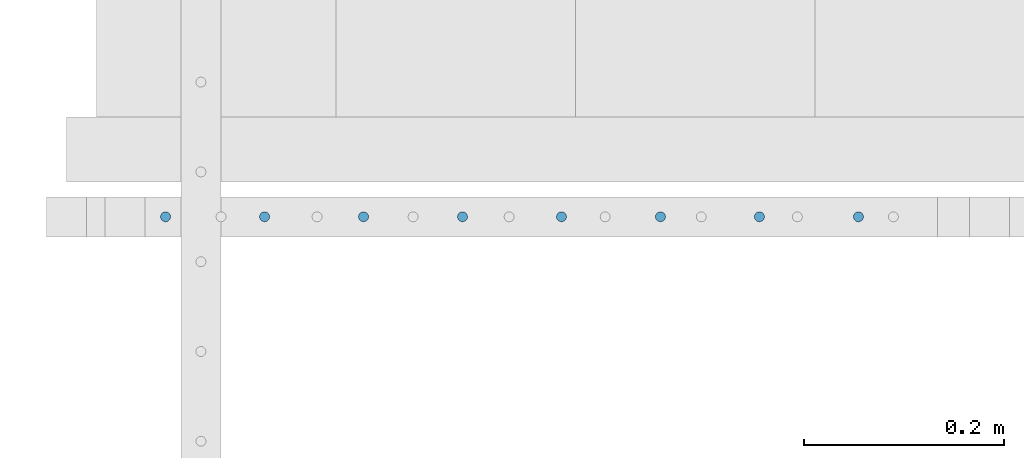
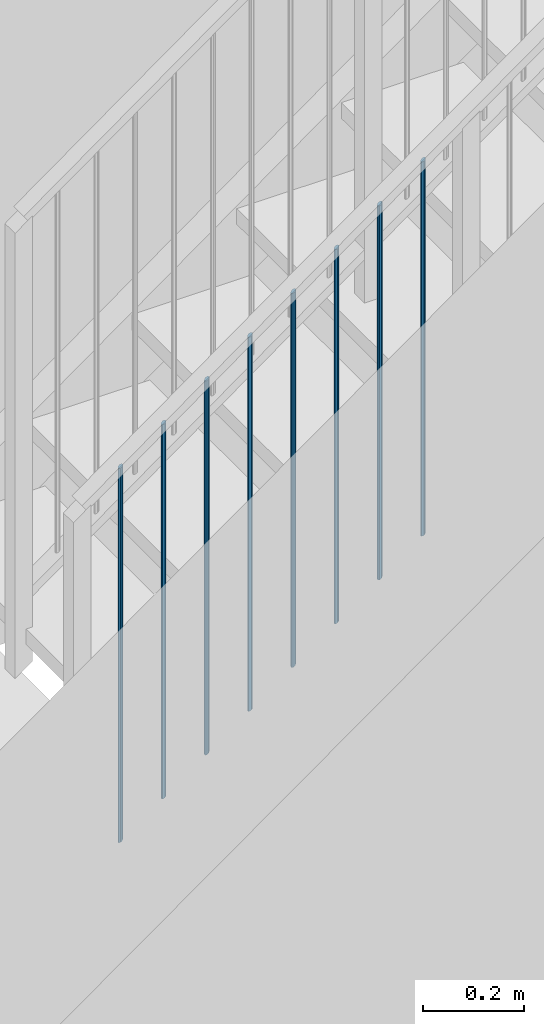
# One storey, part 12 of 135: 8 members, 1 element without a shape of its own.
"""IFC2X3 building model written with IfcOpenShell, lengths in millimetres."""

from ifc_helpers import new_model, entity, si_unit, converted_unit, derived_unit, money_unit, direction, frame, origin_with_axes, place, context, subcontext, project, spatial, faceted_brep, source, transform, mapped, material, type_object, type_shapes, element, aggregate, save


model = new_model("IFC2X3")

# Units and contexts
model_context = context("Model", 3, precision=0.01, world=origin_with_axes(), true_north=direction((0.0, 1.0)))
body_context = subcontext(model_context, "Body", "Model", "MODEL_VIEW")
ifc_project = project(units=[si_unit("LENGTHUNIT", "METRE", prefix="MILLI"), si_unit("AREAUNIT", "SQUARE_METRE"), si_unit("VOLUMEUNIT", "CUBIC_METRE"), converted_unit("PLANEANGLEUNIT", "DEGREE", entity("IfcPlaneAngleMeasure", 0.0174532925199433), si_unit("PLANEANGLEUNIT", "RADIAN"), dimensions=[0, 0, 0, 0, 0, 0, 0]), money_unit("EUR"), converted_unit("TIMEUNIT", "Year", entity("IfcTimeMeasure", 31557600.0), si_unit("TIMEUNIT", "SECOND"), dimensions=[0, 0, 1, 0, 0, 0, 0]), si_unit("MASSUNIT", "GRAM", prefix="KILO"), si_unit("THERMODYNAMICTEMPERATUREUNIT", "DEGREE_CELSIUS"), si_unit("LUMINOUSINTENSITYUNIT", "LUMEN"), si_unit("ENERGYUNIT", "JOULE", prefix="MEGA"), derived_unit("THERMALCONDUCTANCEUNIT", [(si_unit("POWERUNIT", "WATT"), 1), (si_unit("LENGTHUNIT", "METRE"), -1), (si_unit("THERMODYNAMICTEMPERATUREUNIT", "KELVIN"), -1)]), derived_unit("SPECIFICHEATCAPACITYUNIT", [(si_unit("ENERGYUNIT", "JOULE"), 1), (si_unit("MASSUNIT", "GRAM", prefix="KILO"), -1), (si_unit("THERMODYNAMICTEMPERATUREUNIT", "KELVIN"), -1)]), derived_unit("MASSDENSITYUNIT", [(si_unit("MASSUNIT", "GRAM", prefix="KILO"), 1), (si_unit("VOLUMEUNIT", "CUBIC_METRE"), -1)])], contexts=[model_context])

# Site, building, storey
site_placement = place(None, origin_with_axes())
site = spatial("IfcSite", under=ifc_project, at=site_placement, Name="Site", CompositionType="ELEMENT")
building_placement = place(site_placement, origin_with_axes())
building = spatial("IfcBuilding", under=site, at=building_placement, Name="Naam gebouw", CompositionType="ELEMENT")
storey_placement = place(building_placement, origin_with_axes())
storey = spatial("IfcBuildingStorey", under=building, at=storey_placement, Name="Begane grond N", CompositionType="ELEMENT", Elevation=0.0)

# Railing, members
railing_type = type_object("IfcRailingType", Name="Railing Type", PredefinedType="NOTDEFINED")
railing_placement = place(storey_placement, frame((56236.62159597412, 21185.9124251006, 157.4646725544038), z_axis=(0.0, 0.0, 1.0), x_axis=(1.0, 0.0, 0.0)))
railing = element("IfcRailing", 1, at=railing_placement, inside=storey, type_object=railing_type, Name="_Reling-x", PredefinedType="NOTDEFINED")
ifc_material = material(Name="Metaal - Staal C")
member_type = type_object("IfcMemberType", Name="IfcMember", PredefinedType="MEMBER")
shared_shape = source(origin_with_axes(), body_context, "Body", "Brep", [
    faceted_brep([(0.0, -4.999999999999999, -3.602430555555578), (0.8682408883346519, -4.924038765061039, -3.547701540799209), (0.8682408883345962, -4.924038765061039, 903.9522984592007), (0.0, -4.999999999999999, 903.8975694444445), (-0.8682408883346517, -4.924038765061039, -3.547701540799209), (-1.710100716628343, -4.698463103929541, -3.385177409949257), (-2.500000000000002, -4.330127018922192, -3.119796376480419), (-3.213938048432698, -3.830222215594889, -2.759621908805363), (-3.830222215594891, -3.213938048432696, -2.315597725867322), (-4.330127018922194, -2.5, -1.80121527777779), (-4.698463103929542, -1.710100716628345, -1.232103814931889), (-4.924038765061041, -0.8682408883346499, -0.6255555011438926), (-5.0, 0.0, 0.0), (-4.92403876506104, 0.8682408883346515, 0.6255555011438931), (-4.698463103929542, 1.710100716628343, 1.232103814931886), (-4.330127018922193, 2.500000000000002, 1.801215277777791), (-3.83022221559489, 3.213938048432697, 2.315597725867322), (-3.213938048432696, 3.83022221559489, 2.759621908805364), (-2.5, 4.330127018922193, 3.119796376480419), (-1.710100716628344, 4.698463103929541, 3.385177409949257), (-0.8682408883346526, 4.924038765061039, 3.547701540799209), (0.0, 4.999999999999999, 3.602430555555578), (0.8682408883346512, 4.924038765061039, 3.547701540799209), (1.710100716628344, 4.698463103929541, 3.385177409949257), (2.5, 4.330127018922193, 3.119796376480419), (3.213938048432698, 3.830222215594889, 2.759621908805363), (3.83022221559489, 3.213938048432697, 2.315597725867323), (4.330127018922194, 2.499999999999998, 1.801215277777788), (4.698463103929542, 1.710100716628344, 1.232103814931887), (4.92403876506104, 0.8682408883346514, 0.6255555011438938), (5.0, 0.0, 0.0), (4.92403876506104, -0.868240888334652, -0.6255555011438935), (4.698463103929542, -1.710100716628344, -1.232103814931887), (4.330127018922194, -2.5, -1.801215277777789), (3.83022221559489, -3.213938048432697, -2.315597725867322), (3.213938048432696, -3.83022221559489, -2.759621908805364), (2.5, -4.330127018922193, -3.119796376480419), (1.710100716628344, -4.698463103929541, -3.385177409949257), (1.710100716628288, -4.698463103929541, 904.1148225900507), (2.499999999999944, -4.330127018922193, 904.3802036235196), (3.213938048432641, -3.83022221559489, 904.7403780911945), (3.830222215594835, -3.213938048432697, 905.1844022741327), (4.330127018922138, -2.5, 905.6987847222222), (4.698463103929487, -1.710100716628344, 906.2678961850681), (4.924038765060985, -0.868240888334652, 906.8744444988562), (4.999999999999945, 0.0, 907.5), (4.924038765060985, 0.8682408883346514, 908.1255555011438), (4.698463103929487, 1.710100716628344, 908.7321038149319), (4.330127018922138, 2.499999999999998, 909.3012152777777), (3.830222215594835, 3.213938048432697, 909.8155977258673), (3.213938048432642, 3.830222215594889, 910.2596219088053), (2.499999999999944, 4.330127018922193, 910.6197963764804), (1.710100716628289, 4.698463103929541, 910.8851774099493), (0.8682408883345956, 4.924038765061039, 911.0477015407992), (0.0, 4.999999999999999, 911.1024305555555), (-0.8682408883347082, 4.924038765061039, 911.0477015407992), (-1.710100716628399, 4.698463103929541, 910.8851774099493), (-2.500000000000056, 4.330127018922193, 910.6197963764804), (-3.213938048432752, 3.83022221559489, 910.2596219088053), (-3.830222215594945, 3.213938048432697, 909.8155977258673), (-4.330127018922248, 2.500000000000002, 909.3012152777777), (-4.698463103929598, 1.710100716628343, 908.7321038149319), (-4.924038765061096, 0.8682408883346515, 908.1255555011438), (-5.000000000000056, 0.0, 907.5), (-4.924038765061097, -0.8682408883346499, 906.8744444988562), (-4.698463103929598, -1.710100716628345, 906.2678961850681), (-4.330127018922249, -2.5, 905.6987847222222), (-3.830222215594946, -3.213938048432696, 905.1844022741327), (-3.213938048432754, -3.830222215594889, 904.7403780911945), (-2.500000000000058, -4.330127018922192, 904.3802036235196), (-1.710100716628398, -4.698463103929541, 904.1148225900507), (-0.8682408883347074, -4.924038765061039, 903.9522984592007)], [[[0, 1, 2, 3]], [[0, 4, 5, 6, 7, 8, 9, 10, 11, 12, 13, 14, 15, 16, 17, 18, 19, 20, 21, 22, 23, 24, 25, 26, 27, 28, 29, 30, 31, 32, 33, 34, 35, 36, 37, 1]], [[1, 37, 38, 2]], [[3, 2, 38, 39, 40, 41, 42, 43, 44, 45, 46, 47, 48, 49, 50, 51, 52, 53, 54, 55, 56, 57, 58, 59, 60, 61, 62, 63, 64, 65, 66, 67, 68, 69, 70, 71]], [[4, 0, 3, 71]], [[5, 4, 71, 70]], [[6, 5, 70, 69]], [[7, 6, 69, 68]], [[8, 7, 68, 67]], [[9, 8, 67, 66]], [[10, 9, 66, 65]], [[11, 10, 65, 64]], [[12, 11, 64, 63]], [[13, 12, 63, 62]], [[14, 13, 62, 61]], [[15, 14, 61, 60]], [[16, 15, 60, 59]], [[17, 16, 59, 58]], [[18, 17, 58, 57]], [[19, 18, 57, 56]], [[20, 19, 56, 55]], [[21, 20, 55, 54]], [[22, 21, 54, 53]], [[23, 22, 53, 52]], [[24, 23, 52, 51]], [[25, 24, 51, 50]], [[26, 25, 50, 49]], [[27, 26, 49, 48]], [[28, 27, 48, 47]], [[29, 28, 47, 46]], [[30, 29, 46, 45]], [[31, 30, 45, 44]], [[32, 31, 44, 43]], [[33, 32, 43, 42]], [[34, 33, 42, 41]], [[35, 34, 41, 40]], [[36, 35, 40, 39]], [[37, 36, 39, 38]]]),
])
type_shapes(member_type, [shared_shape])
member_1_placement = place(railing_placement, frame((-37.39800395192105, -24.99999999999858, 141.4892199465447), z_axis=(0.0, 0.0, 1.0), x_axis=(1.0, 0.0, 0.0)))
member_1 = element("IfcMember", 2, at=member_1_placement, type_object=member_type, material=ifc_material, Name="_Spijlen-x", ObjectType="MEMBER", context=body_context, shape_type="MappedRepresentation", body=[
    mapped(shared_shape, transform((0.0, 0.0, 0.0), x_axis=(0.0, -1.0, 0.0), y_axis=(1.0, 0.0, 0.0), z_axis=(0.0, 0.0, 1.0))),
])
member_2_placement = place(railing_placement, frame((61.8255880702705, -24.99999999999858, 212.9784398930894), z_axis=(0.0, 0.0, 1.0), x_axis=(1.0, 0.0, 0.0)))
member_2 = element("IfcMember", 3, at=member_2_placement, type_object=member_type, material=ifc_material, Name="_Spijlen-x", ObjectType="MEMBER", context=body_context, shape_type="MappedRepresentation", body=[
    mapped(shared_shape, transform((0.0, 0.0, 0.0), x_axis=(0.0, -1.0, 0.0), y_axis=(1.0, 0.0, 0.0), z_axis=(0.0, 0.0, 1.0))),
])
member_3_placement = place(railing_placement, frame((161.0491800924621, -24.99999999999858, 284.4676598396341), z_axis=(0.0, 0.0, 1.0), x_axis=(1.0, 0.0, 0.0)))
member_3 = element("IfcMember", 4, at=member_3_placement, type_object=member_type, material=ifc_material, Name="_Spijlen-x", ObjectType="MEMBER", context=body_context, shape_type="MappedRepresentation", body=[
    mapped(shared_shape, transform((0.0, 0.0, 0.0), x_axis=(0.0, -1.0, 0.0), y_axis=(1.0, 0.0, 0.0), z_axis=(0.0, 0.0, 1.0))),
])
member_4_placement = place(railing_placement, frame((260.2727721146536, -24.99999999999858, 355.9568797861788), z_axis=(0.0, 0.0, 1.0), x_axis=(1.0, 0.0, 0.0)))
member_4 = element("IfcMember", 5, at=member_4_placement, type_object=member_type, material=ifc_material, Name="_Spijlen-x", ObjectType="MEMBER", context=body_context, shape_type="MappedRepresentation", body=[
    mapped(shared_shape, transform((0.0, 0.0, 0.0), x_axis=(0.0, -1.0, 0.0), y_axis=(1.0, 0.0, 0.0), z_axis=(0.0, 0.0, 1.0))),
])
member_5_placement = place(railing_placement, frame((359.4963641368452, -24.99999999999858, 427.4460997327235), z_axis=(0.0, 0.0, 1.0), x_axis=(1.0, 0.0, 0.0)))
member_5 = element("IfcMember", 6, at=member_5_placement, type_object=member_type, material=ifc_material, Name="_Spijlen-x", ObjectType="MEMBER", context=body_context, shape_type="MappedRepresentation", body=[
    mapped(shared_shape, transform((0.0, 0.0, 0.0), x_axis=(0.0, -1.0, 0.0), y_axis=(1.0, 0.0, 0.0), z_axis=(0.0, 0.0, 1.0))),
])
member_6_placement = place(railing_placement, frame((458.7199561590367, -24.99999999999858, 498.9353196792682), z_axis=(0.0, 0.0, 1.0), x_axis=(1.0, 0.0, 0.0)))
member_6 = element("IfcMember", 7, at=member_6_placement, type_object=member_type, material=ifc_material, Name="_Spijlen-x", ObjectType="MEMBER", context=body_context, shape_type="MappedRepresentation", body=[
    mapped(shared_shape, transform((0.0, 0.0, 0.0), x_axis=(0.0, -1.0, 0.0), y_axis=(1.0, 0.0, 0.0), z_axis=(0.0, 0.0, 1.0))),
])
member_7_placement = place(railing_placement, frame((557.9435481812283, -24.99999999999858, 570.4245396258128), z_axis=(0.0, 0.0, 1.0), x_axis=(1.0, 0.0, 0.0)))
member_7 = element("IfcMember", 8, at=member_7_placement, type_object=member_type, material=ifc_material, Name="_Spijlen-x", ObjectType="MEMBER", context=body_context, shape_type="MappedRepresentation", body=[
    mapped(shared_shape, transform((0.0, 0.0, 0.0), x_axis=(0.0, -1.0, 0.0), y_axis=(1.0, 0.0, 0.0), z_axis=(0.0, 0.0, 1.0))),
])
member_8_placement = place(railing_placement, frame((657.1671402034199, -24.99999999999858, 641.9137595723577), z_axis=(0.0, 0.0, 1.0), x_axis=(1.0, 0.0, 0.0)))
member_8 = element("IfcMember", 9, at=member_8_placement, type_object=member_type, material=ifc_material, Name="_Spijlen-x", ObjectType="MEMBER", context=body_context, shape_type="MappedRepresentation", body=[
    mapped(shared_shape, transform((0.0, 0.0, 0.0), x_axis=(0.0, -1.0, 0.0), y_axis=(1.0, 0.0, 0.0), z_axis=(0.0, 0.0, 1.0))),
])
aggregate(railing, [member_1, member_2, member_3, member_4, member_5, member_6, member_7, member_8])

save(model, "model.ifc")
